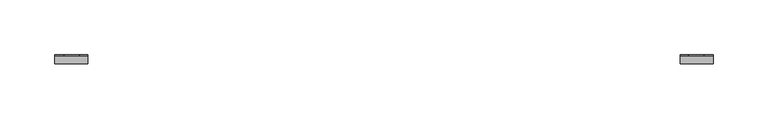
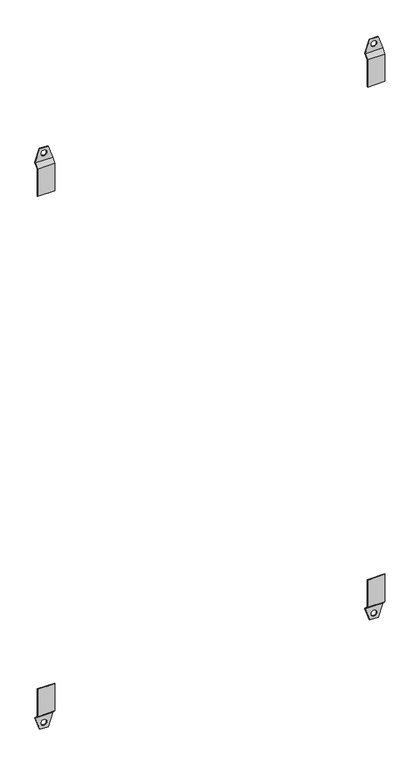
"""IFC4 building model written with IfcOpenShell, lengths in millimetres: electric distribution board geometry, DKC_Комплект кронштейнов для настенного крепления : DKC_Комплект кронштейнов для настенного крепления."""

from ifc_helpers import new_model, si_unit, frame, origin, place, context, project, spatial, polyline, circle_curve, source, transform, mapped, element, save
from ifc_brep_helpers import plane_surface, revolved_surface, advanced_brep


def electric_distribution_board_533b1d73(model_context):
    return source(origin(), model_context, "Body", "AdvancedBrep", [
        advanced_brep(
        [(270.0, 0.0, 0.0), (270.0, 0.0, 50.0), (270.0, 1.0, 50.0), (270.0, 1.0, 0.4142136), (270.0, 8.0710678, -6.6568542), (270.0, 8.0710678, -7.0710678), (270.0, 7.0710678, -7.0710678), (300.0, 0.0, 0.0), (300.0, 7.0710678, -7.0710678), (300.0, 8.0710678, -7.0710678), (300.0, 8.0710678, -6.6568542), (300.0, 1.0, 0.4142136), (300.0, 1.0, 50.0), (300.0, 0.0, 50.0), (292.1049355, 8.0710678, -30.0), (277.8950645, 8.0710678, -30.0), (290.0, 8.0710678, -20.0), (280.0, 8.0710678, -20.0), (292.1049355, 7.0710678, -30.0), (277.8950645, 7.0710678, -30.0), (280.0, 7.0710678, -20.0), (290.0, 7.0710678, -20.0)],
        [
            (0, 1),
            (1, 2),
            (2, 3),
            (3, 4),
            (4, 5),
            (5, 6),
            (6, 0),
            (7, 8),
            (8, 9),
            (9, 10),
            (10, 11),
            (11, 12),
            (12, 13),
            (13, 7),
            (0, 7),
            (13, 1),
            (12, 2),
            (11, 3),
            (10, 4),
            (9, 14),
            (14, 15),
            (15, 5),
            (16, 17, circle_curve(frame((285.0, 8.0710678, -20.0), z_axis=(0.0, -1.0, 0.0), x_axis=(-1.0, 0.0, 0.0)), 5.0)),
            (17, 16, circle_curve(frame((285.0, 8.0710678, -20.0), z_axis=(0.0, -1.0, 0.0), x_axis=(-1.0, 0.0, 0.0)), 5.0)),
            (14, 18),
            (18, 19),
            (19, 15),
            (8, 6),
            (6, 19),
            (18, 8),
            (20, 21, circle_curve(frame((285.0, 7.0710678, -20.0), z_axis=(0.0, 1.0, 0.0), x_axis=(-1.0, 0.0, 0.0)), 5.0)),
            (21, 20, circle_curve(frame((285.0, 7.0710678, -20.0), z_axis=(0.0, 1.0, 0.0), x_axis=(-1.0, 0.0, 0.0)), 5.0)),
            (16, 21),
            (20, 17),
        ],
        [
            plane_surface(frame((270.0, 0.0, 50.0), z_axis=(-1.0, 0.0, 0.0), x_axis=(0.0, 0.0, 1.0))),
            plane_surface(frame((300.0, 0.0, 50.0), z_axis=(1.0, 0.0, 0.0), x_axis=(0.0, 0.0, -1.0))),
            plane_surface(frame((270.0, 0.0, 0.0), z_axis=(0.0, -1.0, 0.0), x_axis=(1.0, 0.0, 0.0))),
            plane_surface(frame((270.0, 0.0, 50.0), z_axis=(0.0, 0.0, 1.0), x_axis=(1.0, 0.0, 0.0))),
            plane_surface(frame((270.0, 1.0, 50.0), z_axis=(0.0, 1.0, 0.0), x_axis=(1.0, 0.0, 0.0))),
            plane_surface(frame((270.0, 1.0, 0.4142136), z_axis=(0.0, 0.7071067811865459, 0.7071067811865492), x_axis=(1.0, 0.0, 0.0))),
            plane_surface(frame((270.0, 8.0710678, -6.6568542), z_axis=(0.0, 1.0, 0.0), x_axis=(1.0, 0.0, 0.0))),
            plane_surface(frame((270.0, 8.0710678, -30.0), z_axis=(0.0, 0.0, -1.0), x_axis=(1.0, 0.0, 0.0))),
            plane_surface(frame((270.0, 7.0710678, -30.0), z_axis=(0.0, -1.0, 0.0), x_axis=(1.0, 0.0, 0.0))),
            plane_surface(frame((270.0, 7.0710678, -7.0710678), z_axis=(0.0, -0.707106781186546, -0.7071067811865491), x_axis=(1.0, 0.0, 0.0))),
            revolved_surface(polyline([(280.0, 7.071067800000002, -20.0), (280.0, 8.071067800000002, -20.0)]), (285.0, 50.0, -20.0), (0.0, -1.0, 0.0)),
            plane_surface(frame((300.0, 0.0, -7.0710678), z_axis=(0.9455185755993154, 0.0, -0.32556815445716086), x_axis=(0.0, 1.0, 0.0))),
            plane_surface(frame((277.8950645, 0.0, -30.0), z_axis=(-0.9455185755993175, 0.0, -0.3255681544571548), x_axis=(0.0, 1.0, 0.0))),
        ],
        [
            (0, [[1, 2, 3, 4, 5, 6, 7]]),
            (1, [[8, 9, 10, 11, 12, 13, 14]]),
            (2, [[-1, 15, -14, 16]]),
            (3, [[-2, -16, -13, 17]]),
            (4, [[-3, -17, -12, 18]]),
            (5, [[-4, -18, -11, 19]]),
            (6, [[-19, -10, 20, 21, 22, -5], [23, 24]]),
            (7, [[-21, 25, 26, 27]]),
            (8, [[28, 29, -26, 30], [31, 32]]),
            (9, [[-7, -28, -8, -15]]),
            (10, [[33, -31, 34, -23]]),
            (10, [[-33, -24, -34, -32]]),
            (11, [[-9, -30, -25, -20]]),
            (12, [[-6, -22, -27, -29]]),
        ],
    ),
        advanced_brep(
        [(-300.0, 0.0, 0.0), (-300.0, 0.0, 50.0), (-300.0, 1.0, 50.0), (-300.0, 1.0, 0.4142136), (-300.0, 8.0710678, -6.6568542), (-300.0, 8.0710678, -7.0710678), (-300.0, 7.0710678, -7.0710678), (-270.0, 0.0, 0.0), (-270.0, 7.0710678, -7.0710678), (-270.0, 8.0710678, -7.0710678), (-270.0, 8.0710678, -6.6568542), (-270.0, 1.0, 0.4142136), (-270.0, 1.0, 50.0), (-270.0, 0.0, 50.0), (-277.8950645, 8.0710678, -30.0), (-292.1049355, 8.0710678, -30.0), (-280.0, 8.0710678, -20.0), (-290.0, 8.0710678, -20.0), (-277.8950645, 7.0710678, -30.0), (-292.1049355, 7.0710678, -30.0), (-290.0, 7.0710678, -20.0), (-280.0, 7.0710678, -20.0)],
        [
            (0, 1),
            (1, 2),
            (2, 3),
            (3, 4),
            (4, 5),
            (5, 6),
            (6, 0),
            (7, 8),
            (8, 9),
            (9, 10),
            (10, 11),
            (11, 12),
            (12, 13),
            (13, 7),
            (0, 7),
            (13, 1),
            (12, 2),
            (11, 3),
            (10, 4),
            (9, 14),
            (14, 15),
            (15, 5),
            (16, 17, circle_curve(frame((-285.0, 8.0710678, -20.0), z_axis=(0.0, -1.0, 0.0), x_axis=(-1.0, 0.0, 0.0)), 5.0)),
            (17, 16, circle_curve(frame((-285.0, 8.0710678, -20.0), z_axis=(0.0, -1.0, 0.0), x_axis=(-1.0, 0.0, 0.0)), 5.0)),
            (14, 18),
            (18, 19),
            (19, 15),
            (8, 6),
            (6, 19),
            (18, 8),
            (20, 21, circle_curve(frame((-285.0, 7.0710678, -20.0), z_axis=(0.0, 1.0, 0.0), x_axis=(-1.0, 0.0, 0.0)), 5.0)),
            (21, 20, circle_curve(frame((-285.0, 7.0710678, -20.0), z_axis=(0.0, 1.0, 0.0), x_axis=(-1.0, 0.0, 0.0)), 5.0)),
            (16, 21),
            (20, 17),
        ],
        [
            plane_surface(frame((-300.0, 0.0, 50.0), z_axis=(-1.0, 0.0, 0.0), x_axis=(0.0, 0.0, 1.0))),
            plane_surface(frame((-270.0, 0.0, 50.0), z_axis=(1.0, 0.0, 0.0), x_axis=(0.0, 0.0, -1.0))),
            plane_surface(frame((-300.0, 0.0, 0.0), z_axis=(0.0, -1.0, 0.0), x_axis=(1.0, 0.0, 0.0))),
            plane_surface(frame((-300.0, 0.0, 50.0), z_axis=(0.0, 0.0, 1.0), x_axis=(1.0, 0.0, 0.0))),
            plane_surface(frame((-300.0, 1.0, 50.0), z_axis=(0.0, 1.0, 0.0), x_axis=(1.0, 0.0, 0.0))),
            plane_surface(frame((-300.0, 1.0, 0.4142136), z_axis=(0.0, 0.7071067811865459, 0.7071067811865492), x_axis=(1.0, 0.0, 0.0))),
            plane_surface(frame((-300.0, 8.0710678, -6.6568542), z_axis=(0.0, 1.0, 0.0), x_axis=(1.0, 0.0, 0.0))),
            plane_surface(frame((-300.0, 8.0710678, -30.0), z_axis=(0.0, 0.0, -1.0), x_axis=(1.0, 0.0, 0.0))),
            plane_surface(frame((-300.0, 7.0710678, -30.0), z_axis=(0.0, -1.0, 0.0), x_axis=(1.0, 0.0, 0.0))),
            plane_surface(frame((-300.0, 7.0710678, -7.0710678), z_axis=(0.0, -0.707106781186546, -0.7071067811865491), x_axis=(1.0, 0.0, 0.0))),
            revolved_surface(polyline([(-290.0, 7.071067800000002, -20.0), (-290.0, 8.071067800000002, -20.0)]), (-285.0, 50.0, -20.0), (0.0, -1.0, 0.0)),
            plane_surface(frame((-270.0, 0.0, -7.0710678), z_axis=(0.9455185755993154, 0.0, -0.3255681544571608), x_axis=(0.0, 1.0, 0.0))),
            plane_surface(frame((-292.1049355, 0.0, -30.0), z_axis=(-0.9455185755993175, 0.0, -0.32556815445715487), x_axis=(0.0, 1.0, 0.0))),
        ],
        [
            (0, [[1, 2, 3, 4, 5, 6, 7]]),
            (1, [[8, 9, 10, 11, 12, 13, 14]]),
            (2, [[-1, 15, -14, 16]]),
            (3, [[-2, -16, -13, 17]]),
            (4, [[-3, -17, -12, 18]]),
            (5, [[-4, -18, -11, 19]]),
            (6, [[-19, -10, 20, 21, 22, -5], [23, 24]]),
            (7, [[-21, 25, 26, 27]]),
            (8, [[28, 29, -26, 30], [31, 32]]),
            (9, [[-7, -28, -8, -15]]),
            (10, [[33, -31, 34, -23]]),
            (10, [[-33, -24, -34, -32]]),
            (11, [[-9, -30, -25, -20]]),
            (12, [[-6, -22, -27, -29]]),
        ],
    ),
        advanced_brep(
        [(-270.0, 0.0, 1000.0), (-270.0, 0.0, 950.0), (-270.0, 1.0, 950.0), (-270.0, 1.0, 999.5857864), (-270.0, 8.0710678, 1006.6568542), (-270.0, 8.0710678, 1007.0710678), (-270.0, 7.0710678, 1007.0710678), (-300.0, 0.0, 1000.0), (-300.0, 7.0710678, 1007.0710678), (-300.0, 8.0710678, 1007.0710678), (-300.0, 8.0710678, 1006.6568542), (-300.0, 1.0, 999.5857864), (-300.0, 1.0, 950.0), (-300.0, 0.0, 950.0), (-292.1049355, 8.0710678, 1030.0), (-277.8950645, 8.0710678, 1030.0), (-290.0, 8.0710678, 1020.0), (-280.0, 8.0710678, 1020.0), (-292.1049355, 7.0710678, 1030.0), (-277.8950645, 7.0710678, 1030.0), (-280.0, 7.0710678, 1020.0), (-290.0, 7.0710678, 1020.0)],
        [
            (0, 1),
            (1, 2),
            (2, 3),
            (3, 4),
            (4, 5),
            (5, 6),
            (6, 0),
            (7, 8),
            (8, 9),
            (9, 10),
            (10, 11),
            (11, 12),
            (12, 13),
            (13, 7),
            (0, 7),
            (13, 1),
            (12, 2),
            (11, 3),
            (10, 4),
            (9, 14),
            (14, 15),
            (15, 5),
            (16, 17, circle_curve(frame((-285.0, 8.0710678, 1020.0), z_axis=(0.0, -1.0, 0.0), x_axis=(1.0, 0.0, 0.0)), 5.0)),
            (17, 16, circle_curve(frame((-285.0, 8.0710678, 1020.0), z_axis=(0.0, -1.0, 0.0), x_axis=(1.0, 0.0, 0.0)), 5.0)),
            (14, 18),
            (18, 19),
            (19, 15),
            (8, 6),
            (6, 19),
            (18, 8),
            (20, 21, circle_curve(frame((-285.0, 7.0710678, 1020.0), z_axis=(0.0, 1.0, 0.0), x_axis=(1.0, 0.0, 0.0)), 5.0)),
            (21, 20, circle_curve(frame((-285.0, 7.0710678, 1020.0), z_axis=(0.0, 1.0, 0.0), x_axis=(1.0, 0.0, 0.0)), 5.0)),
            (16, 21),
            (20, 17),
        ],
        [
            plane_surface(frame((-270.0, 0.0, 950.0), z_axis=(1.0, 0.0, 0.0), x_axis=(0.0, 0.0, -1.0))),
            plane_surface(frame((-300.0, 0.0, 950.0), z_axis=(-1.0, 0.0, 0.0), x_axis=(0.0, 0.0, 1.0))),
            plane_surface(frame((-270.0, 0.0, 1000.0), z_axis=(0.0, -1.0, 0.0), x_axis=(-1.0, 0.0, 0.0))),
            plane_surface(frame((-270.0, 0.0, 950.0), z_axis=(0.0, 0.0, -1.0), x_axis=(-1.0, 0.0, 0.0))),
            plane_surface(frame((-270.0, 1.0, 950.0), z_axis=(0.0, 1.0, 0.0), x_axis=(-1.0, 0.0, 0.0))),
            plane_surface(frame((-270.0, 1.0, 999.5857864), z_axis=(0.0, 0.7071067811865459, -0.7071067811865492), x_axis=(-1.0, 0.0, 0.0))),
            plane_surface(frame((-270.0, 8.0710678, 1006.6568542), z_axis=(0.0, 1.0, 0.0), x_axis=(-1.0, 0.0, 0.0))),
            plane_surface(frame((-270.0, 8.0710678, 1030.0), z_axis=(0.0, 0.0, 1.0), x_axis=(-1.0, 0.0, 0.0))),
            plane_surface(frame((-270.0, 7.0710678, 1030.0), z_axis=(0.0, -1.0, 0.0), x_axis=(-1.0, 0.0, 0.0))),
            plane_surface(frame((-270.0, 7.0710678, 1007.0710678), z_axis=(0.0, -0.707106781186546, 0.7071067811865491), x_axis=(-1.0, 0.0, 0.0))),
            revolved_surface(polyline([(-280.0, 7.071067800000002, 1020.0), (-280.0, 8.071067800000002, 1020.0)]), (-285.0, 50.0, 1020.0), (0.0, -1.0, 0.0)),
            plane_surface(frame((-300.0, 0.0, 1007.0710678), z_axis=(-0.9455185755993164, 0.0, 0.3255681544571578), x_axis=(0.0, 1.0, 0.0))),
            plane_surface(frame((-277.8950645, 0.0, 1030.0), z_axis=(0.9455185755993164, 0.0, 0.3255681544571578), x_axis=(0.0, 1.0, 0.0))),
        ],
        [
            (0, [[1, 2, 3, 4, 5, 6, 7]]),
            (1, [[8, 9, 10, 11, 12, 13, 14]]),
            (2, [[-1, 15, -14, 16]]),
            (3, [[-2, -16, -13, 17]]),
            (4, [[-3, -17, -12, 18]]),
            (5, [[-4, -18, -11, 19]]),
            (6, [[-19, -10, 20, 21, 22, -5], [23, 24]]),
            (7, [[-21, 25, 26, 27]]),
            (8, [[28, 29, -26, 30], [31, 32]]),
            (9, [[-7, -28, -8, -15]]),
            (10, [[33, -31, 34, -23]]),
            (10, [[-33, -24, -34, -32]]),
            (11, [[-9, -30, -25, -20]]),
            (12, [[-6, -22, -27, -29]]),
        ],
    ),
        advanced_brep(
        [(300.0, 0.0, 1000.0), (300.0, 0.0, 950.0), (300.0, 1.0, 950.0), (300.0, 1.0, 999.5857864), (300.0, 8.0710678, 1006.6568542), (300.0, 8.0710678, 1007.0710678), (300.0, 7.0710678, 1007.0710678), (270.0, 0.0, 1000.0), (270.0, 7.0710678, 1007.0710678), (270.0, 8.0710678, 1007.0710678), (270.0, 8.0710678, 1006.6568542), (270.0, 1.0, 999.5857864), (270.0, 1.0, 950.0), (270.0, 0.0, 950.0), (277.8950645, 8.0710678, 1030.0), (292.1049355, 8.0710678, 1030.0), (280.0, 8.0710678, 1020.0), (290.0, 8.0710678, 1020.0), (277.8950645, 7.0710678, 1030.0), (292.1049355, 7.0710678, 1030.0), (290.0, 7.0710678, 1020.0), (280.0, 7.0710678, 1020.0)],
        [
            (0, 1),
            (1, 2),
            (2, 3),
            (3, 4),
            (4, 5),
            (5, 6),
            (6, 0),
            (7, 8),
            (8, 9),
            (9, 10),
            (10, 11),
            (11, 12),
            (12, 13),
            (13, 7),
            (0, 7),
            (13, 1),
            (12, 2),
            (11, 3),
            (10, 4),
            (9, 14),
            (14, 15),
            (15, 5),
            (16, 17, circle_curve(frame((285.0, 8.0710678, 1020.0), z_axis=(0.0, -1.0, 0.0), x_axis=(1.0, 0.0, 0.0)), 5.0)),
            (17, 16, circle_curve(frame((285.0, 8.0710678, 1020.0), z_axis=(0.0, -1.0, 0.0), x_axis=(1.0, 0.0, 0.0)), 5.0)),
            (14, 18),
            (18, 19),
            (19, 15),
            (8, 6),
            (6, 19),
            (18, 8),
            (20, 21, circle_curve(frame((285.0, 7.0710678, 1020.0), z_axis=(0.0, 1.0, 0.0), x_axis=(1.0, 0.0, 0.0)), 5.0)),
            (21, 20, circle_curve(frame((285.0, 7.0710678, 1020.0), z_axis=(0.0, 1.0, 0.0), x_axis=(1.0, 0.0, 0.0)), 5.0)),
            (16, 21),
            (20, 17),
        ],
        [
            plane_surface(frame((300.0, 0.0, 950.0), z_axis=(1.0, 0.0, 0.0), x_axis=(0.0, 0.0, -1.0))),
            plane_surface(frame((270.0, 0.0, 950.0), z_axis=(-1.0, 0.0, 0.0), x_axis=(0.0, 0.0, 1.0))),
            plane_surface(frame((300.0, 0.0, 1000.0), z_axis=(0.0, -1.0, 0.0), x_axis=(-1.0, 0.0, 0.0))),
            plane_surface(frame((300.0, 0.0, 950.0), z_axis=(0.0, 0.0, -1.0), x_axis=(-1.0, 0.0, 0.0))),
            plane_surface(frame((300.0, 1.0, 950.0), z_axis=(0.0, 1.0, 0.0), x_axis=(-1.0, 0.0, 0.0))),
            plane_surface(frame((300.0, 1.0, 999.5857864), z_axis=(0.0, 0.7071067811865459, -0.7071067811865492), x_axis=(-1.0, 0.0, 0.0))),
            plane_surface(frame((300.0, 8.0710678, 1006.6568542), z_axis=(0.0, 1.0, 0.0), x_axis=(-1.0, 0.0, 0.0))),
            plane_surface(frame((300.0, 8.0710678, 1030.0), z_axis=(0.0, 0.0, 1.0), x_axis=(-1.0, 0.0, 0.0))),
            plane_surface(frame((300.0, 7.0710678, 1030.0), z_axis=(0.0, -1.0, 0.0), x_axis=(-1.0, 0.0, 0.0))),
            plane_surface(frame((300.0, 7.0710678, 1007.0710678), z_axis=(0.0, -0.707106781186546, 0.7071067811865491), x_axis=(-1.0, 0.0, 0.0))),
            revolved_surface(polyline([(290.0, 7.071067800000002, 1020.0), (290.0, 8.071067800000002, 1020.0)]), (285.0, 50.0, 1020.0), (0.0, -1.0, 0.0)),
            plane_surface(frame((270.0, 0.0, 1007.0710678), z_axis=(-0.9455185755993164, 0.0, 0.3255681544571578), x_axis=(0.0, 1.0, 0.0))),
            plane_surface(frame((292.1049355, 0.0, 1030.0), z_axis=(0.9455185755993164, 0.0, 0.3255681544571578), x_axis=(0.0, 1.0, 0.0))),
        ],
        [
            (0, [[1, 2, 3, 4, 5, 6, 7]]),
            (1, [[8, 9, 10, 11, 12, 13, 14]]),
            (2, [[-1, 15, -14, 16]]),
            (3, [[-2, -16, -13, 17]]),
            (4, [[-3, -17, -12, 18]]),
            (5, [[-4, -18, -11, 19]]),
            (6, [[-19, -10, 20, 21, 22, -5], [23, 24]]),
            (7, [[-21, 25, 26, 27]]),
            (8, [[28, 29, -26, 30], [31, 32]]),
            (9, [[-7, -28, -8, -15]]),
            (10, [[33, -31, 34, -23]]),
            (10, [[-33, -24, -34, -32]]),
            (11, [[-9, -30, -25, -20]]),
            (12, [[-6, -22, -27, -29]]),
        ],
    ),
    ])


if __name__ == "__main__":
    model = new_model("IFC4")
    model_context = context("Model", 3, world=origin())
    ifc_project = project(units=[si_unit("LENGTHUNIT", "METRE", prefix="MILLI")], contexts=[model_context])
    site = spatial("IfcSite", under=ifc_project)
    building = spatial("IfcBuilding", under=site)
    placement = place(None, origin())
    electric_distribution_board_shape = electric_distribution_board_533b1d73(model_context)
    element("IfcElectricDistributionBoard", 1, ObjectType="DKC_Комплект кронштейнов для настенного крепления : DKC_Комплект кронштейнов для настенного крепления", at=placement, inside=building, context=model_context, shape_type="MappedRepresentation", body=[
        mapped(electric_distribution_board_shape, transform((0.0, 0.0, 0.0), x_axis=(1.0, 0.0, 0.0), y_axis=(0.0, 1.0, 0.0), z_axis=(0.0, 0.0, 1.0))),
    ])
    save(model, "model.ifc")
